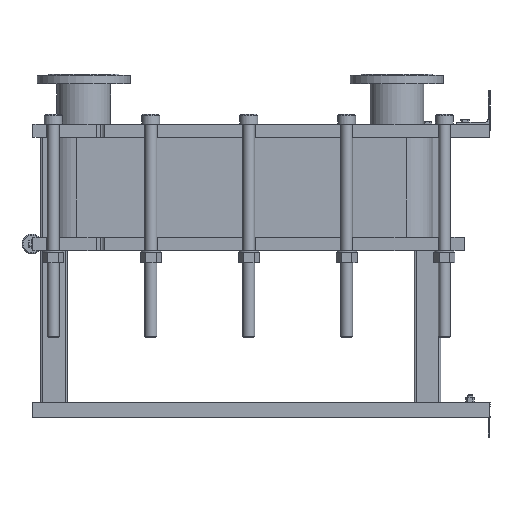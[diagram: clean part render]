
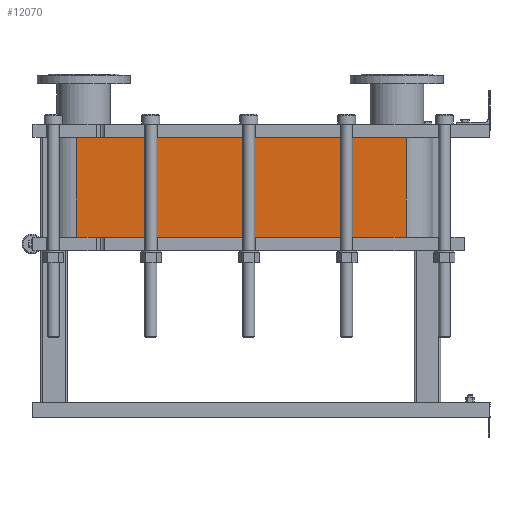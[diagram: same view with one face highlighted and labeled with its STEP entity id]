
A CAD part, left-side view. The second image highlights one B-rep face of the part: STEP entity #12070.
In plain terms, the highlighted planar face has unit normal (-1, 0, 0).
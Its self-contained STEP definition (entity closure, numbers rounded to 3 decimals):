
#1064=LINE('',#21140,#2164);
#1065=LINE('',#21144,#2165);
#1066=LINE('',#21146,#2166);
#1067=LINE('',#21147,#2167);
#2164=VECTOR('',#15790,10.);
#2165=VECTOR('',#15795,10.);
#2166=VECTOR('',#15796,10.);
#2167=VECTOR('',#15797,10.);
#3304=FACE_OUTER_BOUND('',#4091,.T.);
#4091=EDGE_LOOP('',(#9793,#9794,#9795,#9796));
#5677=VERTEX_POINT('',#21137);
#5678=VERTEX_POINT('',#21139);
#5679=VERTEX_POINT('',#21143);
#5680=VERTEX_POINT('',#21145);
#7118=EDGE_CURVE('',#5678,#5677,#1064,.T.);
#7120=EDGE_CURVE('',#5677,#5679,#1065,.T.);
#7121=EDGE_CURVE('',#5680,#5679,#1066,.T.);
#7122=EDGE_CURVE('',#5680,#5678,#1067,.T.);
#9793=ORIENTED_EDGE('',*,*,#7120,.T.);
#9794=ORIENTED_EDGE('',*,*,#7121,.F.);
#9795=ORIENTED_EDGE('',*,*,#7122,.T.);
#9796=ORIENTED_EDGE('',*,*,#7118,.T.);
#11441=PLANE('',#13191);
#12070=ADVANCED_FACE('',(#3304),#11441,.T.);
#13191=AXIS2_PLACEMENT_3D('',#21142,#15793,#15794);
#15790=DIRECTION('',(0.,0.,-1.));
#15793=DIRECTION('center_axis',(-1.,0.,0.));
#15794=DIRECTION('ref_axis',(0.,1.,0.));
#15795=DIRECTION('',(0.,-1.,0.));
#15796=DIRECTION('',(0.,0.,-1.));
#15797=DIRECTION('',(0.,1.,0.));
#21137=CARTESIAN_POINT('',(-248.152,1243.818,-300.15));
#21139=CARTESIAN_POINT('',(-248.152,1243.818,0.));
#21140=CARTESIAN_POINT('',(-248.152,1243.818,0.));
#21142=CARTESIAN_POINT('Origin',(-248.152,251.818,0.));
#21143=CARTESIAN_POINT('',(-248.152,251.818,-300.15));
#21144=CARTESIAN_POINT('',(-248.152,499.818,-300.15));
#21145=CARTESIAN_POINT('',(-248.152,251.818,0.));
#21146=CARTESIAN_POINT('',(-248.152,251.818,0.));
#21147=CARTESIAN_POINT('',(-248.152,251.818,0.));
